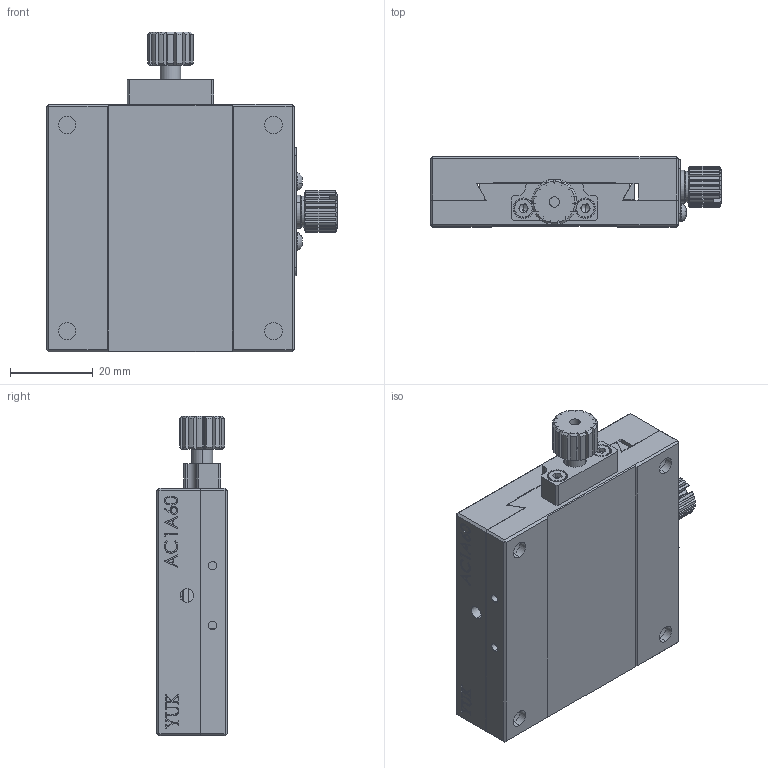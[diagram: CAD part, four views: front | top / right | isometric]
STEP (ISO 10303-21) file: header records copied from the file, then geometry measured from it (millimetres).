
FILE_DESCRIPTION (( 'STEP AP203' ), '1' );
FILE_NAME ('AC1A60(客用).STEP', '2018-07-27T05:56:51', ( '微软用户' ), ( '微软中国' ), 'SwSTEP 2.0', 'SolidWorks 2017', '' );
FILE_SCHEMA (( 'CONFIG_CONTROL_DESIGN' ));
Length unit declared in the file: millimetre
Products named in the file (1): AC1A60(諦蚚)
Bounding box: 70.5 x 17 x 77.5 mm (x, y, z)
Surface area: 24412.9 mm2 (no closed solid volume)
Topology: 0 solids, 17 shells, 631 faces, 2033 edges, 1341 vertices
Faces by surface type: plane 322, cylinder 148, cone 79, bspline 66, torus 12, sphere 4
Entity records: 25566 total; most frequent: CARTESIAN_POINT 8391, ORIENTED_EDGE 3523, DIRECTION 3290, EDGE_CURVE 2013, VERTEX_POINT 1341, VECTOR 1158, LINE 1158, AXIS2_PLACEMENT_3D 1066
